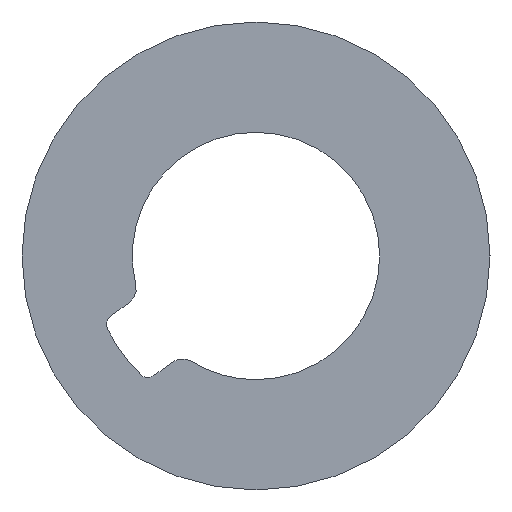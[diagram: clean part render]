
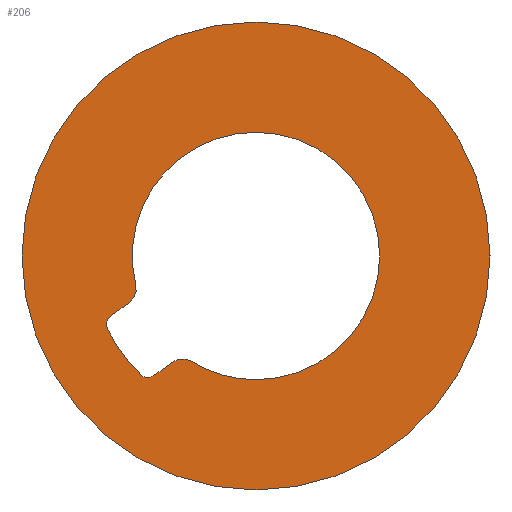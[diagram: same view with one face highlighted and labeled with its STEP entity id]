
A CAD part, left-side view. The second image highlights one B-rep face of the part: STEP entity #206.
In plain terms, the highlighted planar face has unit normal (-1, 0, 0).
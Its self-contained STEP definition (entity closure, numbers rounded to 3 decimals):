
#5 = ORIENTED_EDGE ( 'NONE', *, *, #262, .T. ) ;
#6 = ORIENTED_EDGE ( 'NONE', *, *, #293, .T. ) ;
#7 = ORIENTED_EDGE ( 'NONE', *, *, #292, .T. ) ;
#12 = ORIENTED_EDGE ( 'NONE', *, *, #294, .T. ) ;
#37 = CIRCLE ( 'NONE', #222, 0.3 ) ;
#39 = CIRCLE ( 'NONE', #223, 4.95 ) ;
#40 = CIRCLE ( 'NONE', #227, 0.3 ) ;
#41 = VECTOR ( 'NONE', #381, 1000. ) ;
#42 = CIRCLE ( 'NONE', #231, 0.5 ) ;
#43 = LINE ( 'NONE', #382, #41 ) ;
#45 = VECTOR ( 'NONE', #386, 1000. ) ;
#46 = CIRCLE ( 'NONE', #224, 7. ) ;
#47 = LINE ( 'NONE', #387, #45 ) ;
#64 = CIRCLE ( 'NONE', #233, 3.7 ) ;
#72 = CIRCLE ( 'NONE', #235, 3.7 ) ;
#78 = CIRCLE ( 'NONE', #237, 3.7 ) ;
#86 = CIRCLE ( 'NONE', #239, 7. ) ;
#98 = CIRCLE ( 'NONE', #242, 0.3 ) ;
#100 = CIRCLE ( 'NONE', #243, 0.5 ) ;
#105 = ORIENTED_EDGE ( 'NONE', *, *, #289, .T. ) ;
#106 = ORIENTED_EDGE ( 'NONE', *, *, #268, .F. ) ;
#107 = ORIENTED_EDGE ( 'NONE', *, *, #288, .F. ) ;
#108 = ORIENTED_EDGE ( 'NONE', *, *, #272, .T. ) ;
#109 = ORIENTED_EDGE ( 'NONE', *, *, #275, .T. ) ;
#110 = ORIENTED_EDGE ( 'NONE', *, *, #261, .T. ) ;
#111 = ORIENTED_EDGE ( 'NONE', *, *, #279, .T. ) ;
#112 = ORIENTED_EDGE ( 'NONE', *, *, #291, .T. ) ;
#113 = ORIENTED_EDGE ( 'NONE', *, *, #290, .T. ) ;
#132 = FACE_BOUND ( 'NONE', #160, .T. ) ;
#133 = FACE_OUTER_BOUND ( 'NONE', #155, .T. ) ;
#155 = EDGE_LOOP ( 'NONE', ( #107, #106 ) ) ;
#160 = EDGE_LOOP ( 'NONE', ( #105, #110, #109, #108, #111, #113, #112, #7, #5, #6, #12 ) ) ;
#206 = ADVANCED_FACE ( 'NONE', ( #133, #132 ), #469, .F. ) ;
#222 = AXIS2_PLACEMENT_3D ( 'NONE', #373, #372, #371 ) ;
#223 = AXIS2_PLACEMENT_3D ( 'NONE', #376, #375, #374 ) ;
#224 = AXIS2_PLACEMENT_3D ( 'NONE', #392, #391, #389 ) ;
#227 = AXIS2_PLACEMENT_3D ( 'NONE', #380, #379, #378 ) ;
#231 = AXIS2_PLACEMENT_3D ( 'NONE', #385, #384, #383 ) ;
#233 = AXIS2_PLACEMENT_3D ( 'NONE', #436, #434, #433 ) ;
#235 = AXIS2_PLACEMENT_3D ( 'NONE', #455, #454, #452 ) ;
#237 = AXIS2_PLACEMENT_3D ( 'NONE', #317, #313, #307 ) ;
#239 = AXIS2_PLACEMENT_3D ( 'NONE', #360, #356, #353 ) ;
#242 = AXIS2_PLACEMENT_3D ( 'NONE', #419, #414, #409 ) ;
#243 = AXIS2_PLACEMENT_3D ( 'NONE', #431, #428, #427 ) ;
#253 = AXIS2_PLACEMENT_3D ( 'NONE', #468, #465, #464 ) ;
#261 = EDGE_CURVE ( 'NONE', #519, #524, #100, .T. ) ;
#262 = EDGE_CURVE ( 'NONE', #514, #521, #98, .T. ) ;
#268 = EDGE_CURVE ( 'NONE', #505, #504, #86, .T. ) ;
#272 = EDGE_CURVE ( 'NONE', #513, #501, #78, .T. ) ;
#275 = EDGE_CURVE ( 'NONE', #524, #513, #72, .T. ) ;
#279 = EDGE_CURVE ( 'NONE', #501, #507, #64, .T. ) ;
#288 = EDGE_CURVE ( 'NONE', #504, #505, #46, .T. ) ;
#289 = EDGE_CURVE ( 'NONE', #516, #519, #47, .T. ) ;
#290 = EDGE_CURVE ( 'NONE', #507, #517, #42, .T. ) ;
#291 = EDGE_CURVE ( 'NONE', #517, #511, #43, .T. ) ;
#292 = EDGE_CURVE ( 'NONE', #511, #514, #40, .T. ) ;
#293 = EDGE_CURVE ( 'NONE', #521, #508, #39, .T. ) ;
#294 = EDGE_CURVE ( 'NONE', #508, #516, #37, .T. ) ;
#307 = DIRECTION ( 'NONE',  ( 0., 0., -1. ) ) ;
#313 = DIRECTION ( 'NONE',  ( 1., 0., 0. ) ) ;
#317 = CARTESIAN_POINT ( 'NONE',  ( -460.5, 0., 0. ) ) ;
#326 = CARTESIAN_POINT ( 'NONE',  ( -460.5, 3.596, -0.87 ) ) ;
#330 = CARTESIAN_POINT ( 'NONE',  ( -460.5, 3.444, -3.555 ) ) ;
#333 = CARTESIAN_POINT ( 'NONE',  ( -460.5, 3.788, -1.393 ) ) ;
#335 = CARTESIAN_POINT ( 'NONE',  ( -460.5, 2.495, -3.172 ) ) ;
#337 = CARTESIAN_POINT ( 'NONE',  ( -460.5, 4.352, -1.803 ) ) ;
#339 = CARTESIAN_POINT ( 'NONE',  ( -460.5, 3.236, -3.64 ) ) ;
#340 = CARTESIAN_POINT ( 'NONE',  ( -460.5, 0., 3.7 ) ) ;
#343 = CARTESIAN_POINT ( 'NONE',  ( -460.5, 3.059, -3.582 ) ) ;
#347 = CARTESIAN_POINT ( 'NONE',  ( -460.5, 4.445, -2.177 ) ) ;
#348 = CARTESIAN_POINT ( 'NONE',  ( -460.5, 1.939, -3.151 ) ) ;
#350 = CARTESIAN_POINT ( 'NONE',  ( -460.5, 0., -7. ) ) ;
#351 = CARTESIAN_POINT ( 'NONE',  ( -460.5, 0., 7. ) ) ;
#353 = DIRECTION ( 'NONE',  ( 0., 0., -1. ) ) ;
#355 = CARTESIAN_POINT ( 'NONE',  ( -460.5, 0., -3.7 ) ) ;
#356 = DIRECTION ( 'NONE',  ( 1., 0., 0. ) ) ;
#360 = CARTESIAN_POINT ( 'NONE',  ( -460.5, 0., 0. ) ) ;
#371 = DIRECTION ( 'NONE',  ( 0., 0., -1. ) ) ;
#372 = DIRECTION ( 'NONE',  ( 1., 0., 0. ) ) ;
#373 = CARTESIAN_POINT ( 'NONE',  ( -460.5, 4.176, -2.045 ) ) ;
#374 = DIRECTION ( 'NONE',  ( 0., 0., 1. ) ) ;
#375 = DIRECTION ( 'NONE',  ( 1., 0., 0. ) ) ;
#376 = CARTESIAN_POINT ( 'NONE',  ( -460.5, 0., 0. ) ) ;
#378 = DIRECTION ( 'NONE',  ( 0., 0., 1. ) ) ;
#379 = DIRECTION ( 'NONE',  ( 1., 0., 0. ) ) ;
#380 = CARTESIAN_POINT ( 'NONE',  ( -460.5, 3.236, -3.34 ) ) ;
#381 = DIRECTION ( 'NONE',  ( 0., 0.809, -0.588 ) ) ;
#382 = CARTESIAN_POINT ( 'NONE',  ( -460.5, 3.059, -3.582 ) ) ;
#383 = DIRECTION ( 'NONE',  ( 0., 0., -1. ) ) ;
#384 = DIRECTION ( 'NONE',  ( -1., 0., 0. ) ) ;
#385 = CARTESIAN_POINT ( 'NONE',  ( -460.5, 2.201, -3.577 ) ) ;
#386 = DIRECTION ( 'NONE',  ( 0., -0.809, 0.588 ) ) ;
#387 = CARTESIAN_POINT ( 'NONE',  ( -460.5, 3.788, -1.393 ) ) ;
#389 = DIRECTION ( 'NONE',  ( 0., 0., -1. ) ) ;
#391 = DIRECTION ( 'NONE',  ( 1., 0., 0. ) ) ;
#392 = CARTESIAN_POINT ( 'NONE',  ( -460.5, 0., 0. ) ) ;
#409 = DIRECTION ( 'NONE',  ( 0., 0., 1. ) ) ;
#414 = DIRECTION ( 'NONE',  ( 1., 0., 0. ) ) ;
#419 = CARTESIAN_POINT ( 'NONE',  ( -460.5, 3.236, -3.34 ) ) ;
#427 = DIRECTION ( 'NONE',  ( 0., 0., 1. ) ) ;
#428 = DIRECTION ( 'NONE',  ( -1., 0., 0. ) ) ;
#431 = CARTESIAN_POINT ( 'NONE',  ( -460.5, 4.082, -0.988 ) ) ;
#433 = DIRECTION ( 'NONE',  ( 0., 0., -1. ) ) ;
#434 = DIRECTION ( 'NONE',  ( 1., 0., 0. ) ) ;
#436 = CARTESIAN_POINT ( 'NONE',  ( -460.5, 0., 0. ) ) ;
#452 = DIRECTION ( 'NONE',  ( 0., 0., -1. ) ) ;
#454 = DIRECTION ( 'NONE',  ( 1., 0., 0. ) ) ;
#455 = CARTESIAN_POINT ( 'NONE',  ( -460.5, 0., 0. ) ) ;
#464 = DIRECTION ( 'NONE',  ( 0., 0., -1. ) ) ;
#465 = DIRECTION ( 'NONE',  ( 1., 0., 0. ) ) ;
#468 = CARTESIAN_POINT ( 'NONE',  ( -460.5, 0., 0. ) ) ;
#469 = PLANE ( 'NONE',  #253 ) ;
#501 = VERTEX_POINT ( 'NONE', #355 ) ;
#504 = VERTEX_POINT ( 'NONE', #351 ) ;
#505 = VERTEX_POINT ( 'NONE', #350 ) ;
#507 = VERTEX_POINT ( 'NONE', #348 ) ;
#508 = VERTEX_POINT ( 'NONE', #347 ) ;
#511 = VERTEX_POINT ( 'NONE', #343 ) ;
#513 = VERTEX_POINT ( 'NONE', #340 ) ;
#514 = VERTEX_POINT ( 'NONE', #339 ) ;
#516 = VERTEX_POINT ( 'NONE', #337 ) ;
#517 = VERTEX_POINT ( 'NONE', #335 ) ;
#519 = VERTEX_POINT ( 'NONE', #333 ) ;
#521 = VERTEX_POINT ( 'NONE', #330 ) ;
#524 = VERTEX_POINT ( 'NONE', #326 ) ;
